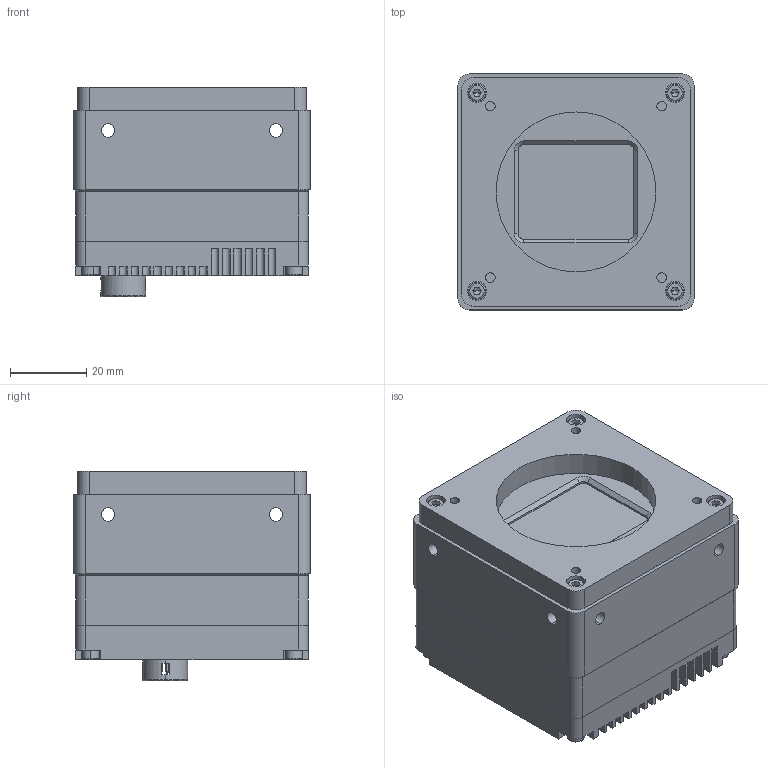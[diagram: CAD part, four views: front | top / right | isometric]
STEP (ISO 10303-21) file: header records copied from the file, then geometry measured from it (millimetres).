
FILE_DESCRIPTION (( 'STEP AP203' ), '1' );
FILE_NAME ('TS31MSGV-6M-A02-V1.2.0.STEP', '2022-08-04T09:52:52', ( '微软用户' ), ( '微软中国' ), 'SwSTEP 2.0', 'SolidWorks 2017', '' );
FILE_SCHEMA (( 'CONFIG_CONTROL_DESIGN' ));
Length unit declared in the file: millimetre
Products named in the file (1): TS31MSGV-6M-A02-V1.2.0
Bounding box: 62 x 62 x 55.07 mm (x, y, z)
Surface area: 28596.6 mm2 (no closed solid volume)
Topology: 0 solids, 62 shells, 588 faces, 2241 edges, 1674 vertices
Faces by surface type: plane 332, cylinder 175, cone 62, torus 16, bspline 2, sphere 1
Entity records: 24769 total; most frequent: CARTESIAN_POINT 5777, DIRECTION 3989, ORIENTED_EDGE 3500, EDGE_CURVE 2222, VERTEX_POINT 1672, LINE 1457, VECTOR 1457, AXIS2_PLACEMENT_3D 1266
